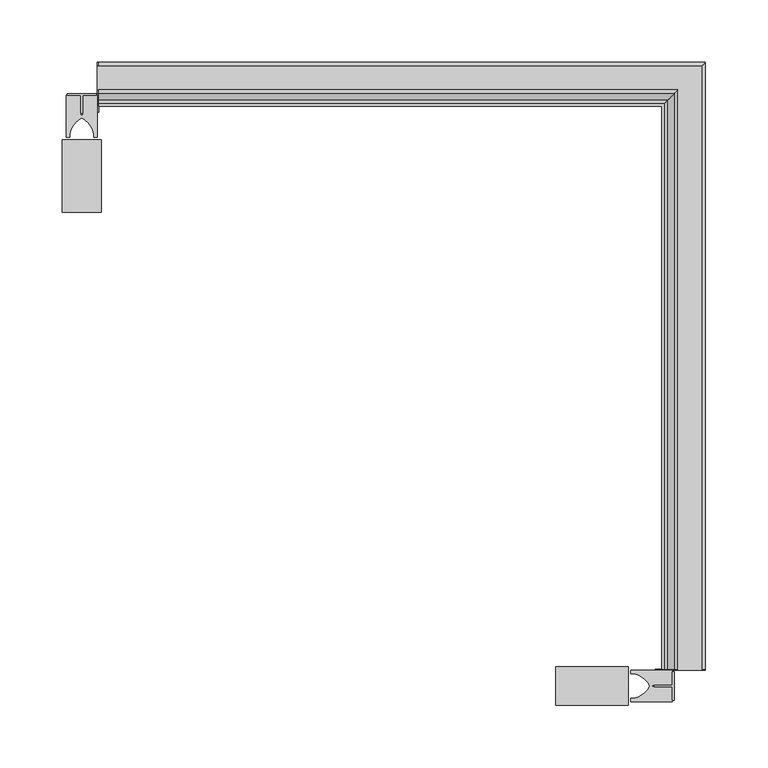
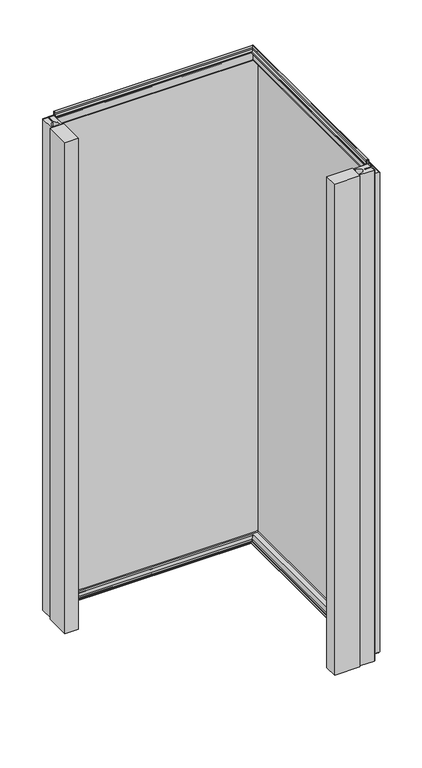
"""IFC4 building model written with IfcOpenShell, lengths in millimetres: plate geometry, Угловой модуль Fronttop : Угловой модуль Fronttop 120/1200."""

from ifc_helpers import new_model, si_unit, point, frame, frame_2d, origin, origin_with_axes, place, context, project, spatial, polyline, circle_curve, ellipse_curve, trimmed, segment, composite_curve, outline, extrude, source, transform, mapped, element, save
from ifc_brep_helpers import plane_surface, cylinder_surface, revolved_surface, advanced_brep


def plate_0956e401(model_context):
    return source(origin(), model_context, "Body", "SolidModel", [
        extrude(outline(polyline([(225.0, -368.4948846), (225.0, -391.5051154), (223.5, -391.5051154), (223.5, -380.6502496), (209.0759655, -380.6502496), (209.0759655, -379.35), (223.5, -379.35), (223.5, -368.4948846), (225.0, -368.4948846)])), origin_with_axes(), (0.0, 0.0, 1.0), 1200.0),
        extrude(outline(composite_curve([segment(polyline([(223.5, -367.4998455), (223.5, -379.25), (207.5, -379.25), (207.5, -380.75), (223.5, -380.75), (223.5, -392.5001545), (190.0, -392.5001545), (190.0, -389.75), (192.5, -389.75)]), True, "CONTINUOUS"), segment(trimmed(circle_curve(frame_2d((189.3183984, -371.9661979)), 18.0661619), [point((192.5, -389.75))], [point((205.5, -380.0))], True, "CARTESIAN"), True, "CONTINUOUS"), segment(trimmed(circle_curve(frame_2d((189.3183984, -388.0338021)), 18.0661619), [point((205.5, -380.0))], [point((192.5, -370.25))], True, "CARTESIAN"), True, "CONTINUOUS"), segment(polyline([(192.5, -370.25), (190.0, -370.25), (190.0, -367.4998455), (223.5, -367.4998455)]), True, "CONTINUOUS")], self_intersect=False)), origin_with_axes(), (0.0, 0.0, 1.0), 1200.0),
        extrude(outline(polyline([(130.0, -395.5), (130.0, -364.5), (188.0, -364.5), (188.0, -395.5), (130.0, -395.5)])), origin_with_axes(), (0.0, 0.0, 1.0), 1200.0),
        extrude(outline(polyline([(-261.5051154, 95.0), (-238.4948846, 95.0), (-238.4948846, 93.5), (-249.3497504, 93.5), (-249.3497504, 79.0759655), (-250.65, 79.0759655), (-250.65, 93.5), (-261.5051154, 93.5), (-261.5051154, 95.0)])), origin_with_axes(), (0.0, 0.0, 1.0), 1200.0),
        extrude(outline(composite_curve([segment(polyline([(-262.5001545, 93.5), (-250.75, 93.5), (-250.75, 77.5), (-249.25, 77.5), (-249.25, 93.5), (-237.4998455, 93.5), (-237.4998455, 60.0), (-240.25, 60.0), (-240.25, 62.5)]), True, "CONTINUOUS"), segment(trimmed(circle_curve(frame_2d((-258.0338021, 59.3183984)), 18.0661619), [point((-240.25, 62.5))], [point((-250.0, 75.5))], True, "CARTESIAN"), True, "CONTINUOUS"), segment(trimmed(circle_curve(frame_2d((-241.9661979, 59.3183984)), 18.0661619), [point((-250.0, 75.5))], [point((-259.75, 62.5))], True, "CARTESIAN"), True, "CONTINUOUS"), segment(polyline([(-259.75, 62.5), (-259.75, 60.0), (-262.5001545, 60.0), (-262.5001545, 93.5)]), True, "CONTINUOUS")], self_intersect=False)), origin_with_axes(), (0.0, 0.0, 1.0), 1200.0),
        extrude(outline(polyline([(-234.5, 0.0), (-265.5, 0.0), (-265.5, 58.0), (-234.5, 58.0), (-234.5, 0.0)])), origin_with_axes(), (0.0, 0.0, 1.0), 1200.0),
        advanced_brep(
        [(-236.5, 94.0, 1208.0), (-236.5, 91.0, 1208.0), (-236.5, 91.0, 1204.0), (-236.5, 87.0, 1200.0), (-236.5, 85.0, 1200.0), (-236.5, 85.0, 1201.0), (-236.5, 87.0, 1201.0), (-236.5, 90.0, 1204.0), (-236.5, 90.0, 1208.0), (-236.5, 95.0, 1208.0), (-236.5, 95.0, 1200.0), (-236.5, 94.0, 1200.0), (-236.5, 85.0, 2.0), (215.0, 85.0, 2.0), (215.0, 85.0, 3.0), (-236.5, 85.0, 3.0), (215.0, -366.5, 3.0), (217.0, -366.5, 3.0), (217.0, 87.0, 3.0), (-236.5, 87.0, 3.0), (218.0, 88.0, 4.0), (-236.5, 88.0, 4.0), (218.0, 88.0, 8.0), (-236.5, 88.0, 8.0), (227.0, 97.0, 8.0), (-236.5, 97.0, 8.0), (227.0, 97.0, 0.0), (-236.5, 97.0, 0.0), (229.0, 99.0, -2.0), (-236.5, 99.0, -2.0), (229.0, -366.5, -2.0), (247.0, -366.5, -2.0), (247.0, 117.0, -2.0), (-236.5, 117.0, -2.0), (249.0, 119.0, 0.0), (-236.5, 119.0, 0.0), (249.0, 119.0, 1169.0), (-236.5, 119.0, 1169.0), (247.0, 117.0, 1171.0), (-236.5, 117.0, 1171.0), (247.0, -366.5, 1171.0), (228.0, -366.5, 1171.0), (228.0, 98.0, 1171.0), (-236.5, 98.0, 1171.0), (224.0, 94.0, 1175.0), (-236.5, 94.0, 1175.0), (224.0, 94.0, 1208.0), (221.0, 91.0, 1208.0), (221.0, 91.0, 1204.0), (217.0, 87.0, 1200.0), (217.0, -366.5, 1200.0), (215.0, -366.5, 1200.0), (215.0, 85.0, 1200.0), (215.0, 85.0, 1201.0), (215.0, -366.5, 1201.0), (217.0, -366.5, 1201.0), (217.0, 87.0, 1201.0), (220.0, 90.0, 1204.0), (220.0, 90.0, 1208.0), (225.0, 95.0, 1208.0), (225.0, 95.0, 1175.0), (-236.5, 95.0, 1175.0), (-237.5, 95.0, 1175.0), (-237.5, 95.0, 1200.0), (228.0, 98.0, 1172.0), (-236.5, 98.0, 1172.0), (228.0, -366.5, 1172.0), (228.0, -367.5, 1172.0), (247.0, -367.5, 1172.0), (247.0, -366.5, 1172.0), (247.0, 117.0, 1172.0), (-236.5, 117.0, 1172.0), (-237.5, 117.0, 1172.0), (-237.5, 98.0, 1172.0), (250.0, 120.0, 1169.0), (-236.5, 120.0, 1169.0), (250.0, 120.0, 0.0), (-236.5, 120.0, 0.0), (-237.5, 120.0, 0.0), (-237.5, 120.0, 1169.0), (247.0, 117.0, -3.0), (-236.5, 117.0, -3.0), (247.0, -366.5, -3.0), (247.0, -367.5, -3.0), (225.0, -367.5, -3.0), (225.0, -366.5, -3.0), (229.0, -366.5, -3.0), (229.0, 99.0, -3.0), (-236.5, 99.0, -3.0), (-236.5, 95.0, -3.0), (-237.5, 95.0, -3.0), (-237.5, 117.0, -3.0), (226.0, 96.0, 0.0), (-236.5, 96.0, 0.0), (226.0, 96.0, 8.0), (-236.5, 96.0, 8.0), (219.0, 89.0, 8.0), (-236.5, 89.0, 8.0), (219.0, 89.0, 4.0), (-236.5, 89.0, 4.0), (217.0, 87.0, 2.0), (-236.5, 87.0, 2.0), (217.0, -366.5, 2.0), (215.0, -366.5, 2.0), (221.0, -366.5, 1204.0), (221.0, -366.5, 1208.0), (224.0, -366.5, 1208.0), (224.0, -366.5, 1200.0), (225.0, -366.5, 1200.0), (225.0, -366.5, 1208.0), (220.0, -366.5, 1208.0), (220.0, -366.5, 1204.0), (218.0, -366.5, 4.0), (218.0, -366.5, 8.0), (227.0, -366.5, 8.0), (227.0, -366.5, 0.0), (249.0, -366.5, 0.0), (249.0, -366.5, 1169.0), (224.0, -366.5, 1175.0), (225.0, -367.5, 1200.0), (225.0, -367.5, 1175.0), (225.0, -366.5, 1175.0), (250.0, -366.5, 1169.0), (250.0, -367.5, 1169.0), (250.0, -367.5, 0.0), (250.0, -366.5, 0.0), (226.0, -366.5, 0.0), (226.0, -366.5, 8.0), (219.0, -366.5, 8.0), (219.0, -366.5, 4.0), (-236.5, 80.0, 1200.0), (-236.5, 80.0, 0.0), (-236.5, 95.0, 0.0), (-237.5, 95.0, 0.0), (-237.5, 80.0, 0.0), (-237.5, 80.0, 1200.0), (210.0, -366.5, 0.0), (210.0, -366.5, 1200.0), (225.0, -366.5, 0.0), (210.0, -367.5, 0.0), (225.0, -367.5, 0.0), (210.0, -367.5, 1200.0)],
        [
            (0, 1, circle_curve(frame((-236.5, 92.5, 1208.0), z_axis=(1.0, 0.0, 0.0), x_axis=(0.0, -1.0, 0.0)), 1.5)),
            (1, 2),
            (2, 3, circle_curve(frame((-236.5, 87.0, 1204.0), z_axis=(-1.0, 0.0, 0.0), x_axis=(0.0, -1.0, 0.0)), 4.0)),
            (3, 4),
            (4, 5),
            (5, 6),
            (6, 7, circle_curve(frame((-236.5, 87.0, 1204.0), z_axis=(1.0, 0.0, 0.0), x_axis=(0.0, -1.0, 0.0)), 3.0)),
            (7, 8),
            (8, 9, circle_curve(frame((-236.5, 92.5, 1208.0), z_axis=(-1.0, 0.0, 0.0), x_axis=(0.0, -1.0, 0.0)), 2.5)),
            (9, 10),
            (10, 11),
            (11, 0),
            (12, 13),
            (13, 14),
            (14, 15),
            (15, 12),
            (14, 16),
            (16, 17),
            (17, 18),
            (18, 19),
            (19, 15),
            (18, 20, ellipse_curve(frame((217.0, 87.0, 4.0), z_axis=(0.7071067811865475, -0.7071067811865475, 0.0), x_axis=(0.7071067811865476, 0.7071067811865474, 0.0)), 1.4142136, 1.0)),
            (20, 21),
            (21, 19, circle_curve(frame((-236.5, 87.0, 4.0), z_axis=(-1.0, 0.0, 0.0), x_axis=(0.0, -1.0, 0.0)), 1.0)),
            (20, 22),
            (22, 23),
            (23, 21),
            (22, 24, ellipse_curve(frame((222.5, 92.5, 8.0), z_axis=(-0.7071067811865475, 0.7071067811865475, 0.0), x_axis=(-0.7071067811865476, -0.7071067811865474, 0.0)), 6.363961, 4.5)),
            (24, 25),
            (25, 23, circle_curve(frame((-236.5, 92.5, 8.0), z_axis=(1.0, 0.0, 0.0), x_axis=(0.0, -1.0, 0.0)), 4.5)),
            (24, 26),
            (26, 27),
            (27, 25),
            (26, 28, ellipse_curve(frame((229.0, 99.0, 0.0), z_axis=(0.7071067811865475, -0.7071067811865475, 0.0), x_axis=(0.7071067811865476, 0.7071067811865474, 0.0)), 2.8284271, 2.0)),
            (28, 29),
            (29, 27, circle_curve(frame((-236.5, 99.0, 0.0), z_axis=(-1.0, 0.0, 0.0), x_axis=(0.0, -1.0, 0.0)), 2.0)),
            (28, 30),
            (30, 31),
            (31, 32),
            (32, 33),
            (33, 29),
            (32, 34, ellipse_curve(frame((247.0, 117.0, 0.0), z_axis=(0.7071067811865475, -0.7071067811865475, 0.0), x_axis=(0.7071067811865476, 0.7071067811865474, 0.0)), 2.8284271, 2.0)),
            (34, 35),
            (35, 33, circle_curve(frame((-236.5, 117.0, 0.0), z_axis=(-1.0, 0.0, 0.0), x_axis=(0.0, -1.0, 0.0)), 2.0)),
            (34, 36),
            (36, 37),
            (37, 35),
            (36, 38, ellipse_curve(frame((247.0, 117.0, 1169.0), z_axis=(0.7071067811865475, -0.7071067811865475, 0.0), x_axis=(0.7071067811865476, 0.7071067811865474, 0.0)), 2.8284271, 2.0)),
            (38, 39),
            (39, 37, circle_curve(frame((-236.5, 117.0, 1169.0), z_axis=(-1.0, 0.0, 0.0), x_axis=(0.0, -1.0, 0.0)), 2.0)),
            (38, 40),
            (40, 41),
            (41, 42),
            (42, 43),
            (43, 39),
            (42, 44, ellipse_curve(frame((228.0, 98.0, 1175.0), z_axis=(-0.7071067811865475, 0.7071067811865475, 0.0), x_axis=(-0.7071067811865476, -0.7071067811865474, 0.0)), 5.6568542, 4.0)),
            (44, 45),
            (45, 43, circle_curve(frame((-236.5, 98.0, 1175.0), z_axis=(1.0, 0.0, 0.0), x_axis=(0.0, -1.0, 0.0)), 4.0)),
            (44, 46),
            (46, 0),
            (11, 45),
            (46, 47, ellipse_curve(frame((222.5, 92.5, 1208.0), z_axis=(0.7071067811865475, -0.7071067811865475, 0.0), x_axis=(0.7071067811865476, 0.7071067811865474, 0.0)), 2.1213203, 1.5)),
            (47, 1),
            (47, 48),
            (48, 2),
            (48, 49, ellipse_curve(frame((217.0, 87.0, 1204.0), z_axis=(-0.7071067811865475, 0.7071067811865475, 0.0), x_axis=(-0.7071067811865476, -0.7071067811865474, 0.0)), 5.6568542, 4.0)),
            (49, 3),
            (49, 50),
            (50, 51),
            (51, 52),
            (52, 4),
            (4, 3),
            (52, 53),
            (53, 5),
            (53, 54),
            (54, 55),
            (55, 56),
            (56, 6),
            (56, 57, ellipse_curve(frame((217.0, 87.0, 1204.0), z_axis=(0.7071067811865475, -0.7071067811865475, 0.0), x_axis=(0.7071067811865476, 0.7071067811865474, 0.0)), 4.2426407, 3.0)),
            (57, 7),
            (57, 58),
            (58, 8),
            (58, 59, ellipse_curve(frame((222.5, 92.5, 1208.0), z_axis=(-0.7071067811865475, 0.7071067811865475, 0.0), x_axis=(-0.7071067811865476, -0.7071067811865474, 0.0)), 3.5355339, 2.5)),
            (59, 9),
            (59, 60),
            (60, 61),
            (61, 62),
            (62, 63),
            (63, 10),
            (60, 64, ellipse_curve(frame((228.0, 98.0, 1175.0), z_axis=(0.7071067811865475, -0.7071067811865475, 0.0), x_axis=(0.7071067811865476, 0.7071067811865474, 0.0)), 4.2426407, 3.0)),
            (64, 65),
            (65, 61, circle_curve(frame((-236.5, 98.0, 1175.0), z_axis=(-1.0, 0.0, 0.0), x_axis=(0.0, -1.0, 0.0)), 3.0)),
            (64, 66),
            (66, 67),
            (67, 68),
            (68, 69),
            (69, 70),
            (70, 71),
            (71, 72),
            (72, 73),
            (73, 65),
            (70, 74, ellipse_curve(frame((247.0, 117.0, 1169.0), z_axis=(-0.7071067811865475, 0.7071067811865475, 0.0), x_axis=(-0.7071067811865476, -0.7071067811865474, 0.0)), 4.2426407, 3.0)),
            (74, 75),
            (75, 71, circle_curve(frame((-236.5, 117.0, 1169.0), z_axis=(1.0, 0.0, 0.0), x_axis=(0.0, -1.0, 0.0)), 3.0)),
            (74, 76),
            (76, 77),
            (77, 78),
            (78, 79),
            (79, 75),
            (76, 80, ellipse_curve(frame((247.0, 117.0, 0.0), z_axis=(-0.7071067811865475, 0.7071067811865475, 0.0), x_axis=(-0.7071067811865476, -0.7071067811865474, 0.0)), 4.2426407, 3.0)),
            (80, 81),
            (81, 77, circle_curve(frame((-236.5, 117.0, 0.0), z_axis=(1.0, 0.0, 0.0), x_axis=(0.0, -1.0, 0.0)), 3.0)),
            (80, 82),
            (82, 83),
            (83, 84),
            (84, 85),
            (85, 86),
            (86, 87),
            (87, 88),
            (88, 89),
            (89, 90),
            (90, 91),
            (91, 81),
            (87, 92, ellipse_curve(frame((229.0, 99.0, 0.0), z_axis=(-0.7071067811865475, 0.7071067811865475, 0.0), x_axis=(-0.7071067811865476, -0.7071067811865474, 0.0)), 4.2426407, 3.0)),
            (92, 93),
            (93, 88, circle_curve(frame((-236.5, 99.0, 0.0), z_axis=(1.0, 0.0, 0.0), x_axis=(0.0, -1.0, 0.0)), 3.0)),
            (92, 94),
            (94, 95),
            (95, 93),
            (94, 96, ellipse_curve(frame((222.5, 92.5, 8.0), z_axis=(0.7071067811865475, -0.7071067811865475, 0.0), x_axis=(0.7071067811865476, 0.7071067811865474, 0.0)), 4.9497475, 3.5)),
            (96, 97),
            (97, 95, circle_curve(frame((-236.5, 92.5, 8.0), z_axis=(-1.0, 0.0, 0.0), x_axis=(0.0, -1.0, 0.0)), 3.5)),
            (96, 98),
            (98, 99),
            (99, 97),
            (98, 100, ellipse_curve(frame((217.0, 87.0, 4.0), z_axis=(-0.7071067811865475, 0.7071067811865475, 0.0), x_axis=(-0.7071067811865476, -0.7071067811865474, 0.0)), 2.8284271, 2.0)),
            (100, 101),
            (101, 99, circle_curve(frame((-236.5, 87.0, 4.0), z_axis=(1.0, 0.0, 0.0), x_axis=(0.0, -1.0, 0.0)), 2.0)),
            (12, 101),
            (100, 102),
            (102, 103),
            (103, 13),
            (54, 51),
            (51, 50),
            (50, 104, circle_curve(frame((217.0, -366.5, 1204.0), z_axis=(0.0, -1.0, 0.0), x_axis=(-1.0, 0.0, 0.0)), 4.0)),
            (104, 105),
            (105, 106, circle_curve(frame((222.5, -366.5, 1208.0), z_axis=(0.0, 1.0, 0.0), x_axis=(-1.0, 0.0, 0.0)), 1.5)),
            (106, 107),
            (107, 108),
            (108, 109),
            (109, 110, circle_curve(frame((222.5, -366.5, 1208.0), z_axis=(0.0, -1.0, 0.0), x_axis=(-1.0, 0.0, 0.0)), 2.5)),
            (110, 111),
            (111, 55, circle_curve(frame((217.0, -366.5, 1204.0), z_axis=(0.0, 1.0, 0.0), x_axis=(-1.0, 0.0, 0.0)), 3.0)),
            (103, 16),
            (17, 112, circle_curve(frame((217.0, -366.5, 4.0), z_axis=(0.0, -1.0, 0.0), x_axis=(-1.0, 0.0, 0.0)), 1.0)),
            (112, 20),
            (112, 113),
            (113, 22),
            (113, 114, circle_curve(frame((222.5, -366.5, 8.0), z_axis=(0.0, 1.0, 0.0), x_axis=(-1.0, 0.0, 0.0)), 4.5)),
            (114, 24),
            (114, 115),
            (115, 26),
            (115, 30, circle_curve(frame((229.0, -366.5, 0.0), z_axis=(0.0, -1.0, 0.0), x_axis=(-1.0, 0.0, 0.0)), 2.0)),
            (31, 116, circle_curve(frame((247.0, -366.5, 0.0), z_axis=(0.0, -1.0, 0.0), x_axis=(-1.0, 0.0, 0.0)), 2.0)),
            (116, 34),
            (116, 117),
            (117, 36),
            (117, 40, circle_curve(frame((247.0, -366.5, 1169.0), z_axis=(0.0, -1.0, 0.0), x_axis=(-1.0, 0.0, 0.0)), 2.0)),
            (41, 118, circle_curve(frame((228.0, -366.5, 1175.0), z_axis=(0.0, 1.0, 0.0), x_axis=(-1.0, 0.0, 0.0)), 4.0)),
            (118, 44),
            (118, 107),
            (106, 46),
            (105, 47),
            (104, 48),
            (111, 57),
            (110, 58),
            (109, 59),
            (108, 119),
            (119, 120),
            (120, 121),
            (121, 60),
            (121, 66, circle_curve(frame((228.0, -366.5, 1175.0), z_axis=(0.0, -1.0, 0.0), x_axis=(-1.0, 0.0, 0.0)), 3.0)),
            (69, 122, circle_curve(frame((247.0, -366.5, 1169.0), z_axis=(0.0, 1.0, 0.0), x_axis=(-1.0, 0.0, 0.0)), 3.0)),
            (122, 74),
            (122, 123),
            (123, 124),
            (124, 125),
            (125, 76),
            (125, 82, circle_curve(frame((247.0, -366.5, 0.0), z_axis=(0.0, 1.0, 0.0), x_axis=(-1.0, 0.0, 0.0)), 3.0)),
            (86, 126, circle_curve(frame((229.0, -366.5, 0.0), z_axis=(0.0, 1.0, 0.0), x_axis=(-1.0, 0.0, 0.0)), 3.0)),
            (126, 92),
            (126, 127),
            (127, 94),
            (127, 128, circle_curve(frame((222.5, -366.5, 8.0), z_axis=(0.0, -1.0, 0.0), x_axis=(-1.0, 0.0, 0.0)), 3.5)),
            (128, 96),
            (128, 129),
            (129, 98),
            (129, 102, circle_curve(frame((217.0, -366.5, 4.0), z_axis=(0.0, 1.0, 0.0), x_axis=(-1.0, 0.0, 0.0)), 2.0)),
            (130, 131),
            (131, 132),
            (132, 89),
            (11, 3),
            (4, 130),
            (62, 73, circle_curve(frame((-237.5, 98.0, 1175.0), z_axis=(1.0, 0.0, 0.0), x_axis=(0.0, 1.0, 0.0)), 3.0)),
            (72, 79, circle_curve(frame((-237.5, 117.0, 1169.0), z_axis=(-1.0, 0.0, 0.0), x_axis=(0.0, 1.0, 0.0)), 3.0)),
            (78, 91, circle_curve(frame((-237.5, 117.0, 0.0), z_axis=(-1.0, 0.0, 0.0), x_axis=(0.0, 1.0, 0.0)), 3.0)),
            (90, 133),
            (133, 134),
            (134, 135),
            (135, 63),
            (135, 130),
            (134, 131),
            (133, 132),
            (136, 137),
            (137, 51),
            (50, 107),
            (85, 138),
            (138, 136),
            (139, 140),
            (140, 84),
            (83, 124, circle_curve(frame((247.0, -367.5, 0.0), z_axis=(0.0, -1.0, 0.0), x_axis=(-1.0, 0.0, 0.0)), 3.0)),
            (123, 68, circle_curve(frame((247.0, -367.5, 1169.0), z_axis=(0.0, -1.0, 0.0), x_axis=(-1.0, 0.0, 0.0)), 3.0)),
            (67, 120, circle_curve(frame((228.0, -367.5, 1175.0), z_axis=(0.0, 1.0, 0.0), x_axis=(-1.0, 0.0, 0.0)), 3.0)),
            (119, 141),
            (141, 139),
            (138, 140),
            (139, 136),
            (137, 141),
        ],
        [
            plane_surface(frame((-236.5, 0.0, 0.0), z_axis=(-1.0, 0.0, 0.0), x_axis=(0.0, 0.0, 1.0))),
            plane_surface(frame((-236.5, 85.0, 2.0), z_axis=(0.0, -1.0, 0.0), x_axis=(1.0, 0.0, 0.0))),
            plane_surface(frame((-236.5, 85.0, 3.0), z_axis=(0.0, 0.0, 1.0), x_axis=(1.0, 0.0, 0.0))),
            revolved_surface(polyline([(218.00000002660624, 86.0, 4.0), (-236.5, 86.0, 4.0)]), (-236.5, 87.0, 4.0), (1.0, 0.0, 0.0)),
            plane_surface(frame((-236.5, 88.0, 4.0), z_axis=(0.0, -1.0, 0.0), x_axis=(1.0, 0.0, 0.0))),
            cylinder_surface(frame((-236.5, 92.5, 8.0), z_axis=(-1.0, 0.0, 0.0), x_axis=(0.0, -1.0, 0.0)), 4.5),
            plane_surface(frame((-236.5, 97.0, 8.0), z_axis=(0.0, 1.0, 0.0), x_axis=(1.0, 0.0, 0.0))),
            revolved_surface(polyline([(230.99999998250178, 97.0, 0.0), (-236.5, 97.0, 0.0)]), (-236.5, 99.0, 0.0), (1.0, 0.0, 0.0)),
            plane_surface(frame((-236.5, 99.0, -2.0), z_axis=(0.0, 0.0, 1.0), x_axis=(1.0, 0.0, 0.0))),
            revolved_surface(polyline([(249.0, 115.0, 0.0), (-236.5, 115.0, 0.0)]), (-236.5, 117.0, 0.0), (1.0, 0.0, 0.0)),
            plane_surface(frame((-236.5, 119.0, 0.0), z_axis=(0.0, -1.0, 0.0), x_axis=(1.0, 0.0, 0.0))),
            revolved_surface(polyline([(249.0, 115.0, 1169.0), (-236.5, 115.0, 1169.0)]), (-236.5, 117.0, 1169.0), (1.0, 0.0, 0.0)),
            plane_surface(frame((-236.5, 117.0, 1171.0), z_axis=(0.0, 0.0, -1.0), x_axis=(1.0, 0.0, 0.0))),
            cylinder_surface(frame((-236.5, 98.0, 1175.0), z_axis=(-1.0, 0.0, 0.0), x_axis=(0.0, -1.0, 0.0)), 4.0),
            plane_surface(frame((-236.5, 94.0, 1175.0), z_axis=(0.0, -1.0, 0.0), x_axis=(1.0, 0.0, 0.0))),
            revolved_surface(polyline([(224.0, 91.0, 1208.0), (-236.5, 91.0, 1208.0)]), (-236.5, 92.5, 1208.0), (1.0, 0.0, 0.0)),
            plane_surface(frame((-236.5, 91.0, 1208.0), z_axis=(0.0, 1.0, 0.0), x_axis=(1.0, 0.0, 0.0))),
            cylinder_surface(frame((-236.5, 87.0, 1204.0), z_axis=(-1.0, 0.0, 0.0), x_axis=(0.0, -1.0, 0.0)), 4.0),
            plane_surface(frame((-236.5, 87.0, 1200.0), z_axis=(0.0, 0.0, -1.0), x_axis=(1.0, 0.0, 0.0))),
            plane_surface(frame((-236.5, 85.0, 1200.0), z_axis=(0.0, -1.0, 0.0), x_axis=(1.0, 0.0, 0.0))),
            plane_surface(frame((-236.5, 85.0, 1201.0), z_axis=(0.0, 0.0, 1.0), x_axis=(1.0, 0.0, 0.0))),
            revolved_surface(polyline([(220.00000000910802, 84.0, 1204.0), (-236.5, 84.0, 1204.0)]), (-236.5, 87.0, 1204.0), (1.0, 0.0, 0.0)),
            plane_surface(frame((-236.5, 90.0, 1204.0), z_axis=(0.0, -1.0, 0.0), x_axis=(1.0, 0.0, 0.0))),
            cylinder_surface(frame((-236.5, 92.5, 1208.0), z_axis=(-1.0, 0.0, 0.0), x_axis=(0.0, -1.0, 0.0)), 2.5),
            plane_surface(frame((-236.5, 95.0, 1208.0), z_axis=(0.0, 1.0, 0.0), x_axis=(1.0, 0.0, 0.0))),
            revolved_surface(polyline([(231.00000000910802, 95.0, 1175.0), (-236.5, 95.0, 1175.0)]), (-236.5, 98.0, 1175.0), (1.0, 0.0, 0.0)),
            plane_surface(frame((-236.5, 98.0, 1172.0), z_axis=(0.0, 0.0, 1.0), x_axis=(1.0, 0.0, 0.0))),
            cylinder_surface(frame((-236.5, 117.0, 1169.0), z_axis=(-1.0, 0.0, 0.0), x_axis=(0.0, -1.0, 0.0)), 3.0),
            plane_surface(frame((-236.5, 120.0, 1169.0), z_axis=(0.0, 1.0, 0.0), x_axis=(1.0, 0.0, 0.0))),
            cylinder_surface(frame((-236.5, 117.0, 0.0), z_axis=(-1.0, 0.0, 0.0), x_axis=(0.0, -1.0, 0.0)), 3.0),
            plane_surface(frame((-236.5, 117.0, -3.0), z_axis=(0.0, 0.0, -1.0), x_axis=(1.0, 0.0, 0.0))),
            cylinder_surface(frame((-236.5, 99.0, 0.0), z_axis=(-1.0, 0.0, 0.0), x_axis=(0.0, -1.0, 0.0)), 3.0),
            plane_surface(frame((-236.5, 96.0, 0.0), z_axis=(0.0, -1.0, 0.0), x_axis=(1.0, 0.0, 0.0))),
            revolved_surface(polyline([(226.00000002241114, 89.0, 8.0), (-236.5, 89.0, 8.0)]), (-236.5, 92.5, 8.0), (1.0, 0.0, 0.0)),
            plane_surface(frame((-236.5, 89.0, 8.0), z_axis=(0.0, 1.0, 0.0), x_axis=(1.0, 0.0, 0.0))),
            cylinder_surface(frame((-236.5, 87.0, 4.0), z_axis=(-1.0, 0.0, 0.0), x_axis=(0.0, -1.0, 0.0)), 2.0),
            plane_surface(frame((-236.5, 87.0, 2.0), z_axis=(0.0, 0.0, -1.0), x_axis=(1.0, 0.0, 0.0))),
            plane_surface(frame((130.0, -366.5, 0.0), z_axis=(0.0, -1.0, 0.0), x_axis=(0.0, 0.0, 1.0))),
            plane_surface(frame((215.0, 85.0, 2.0), z_axis=(-1.0, 0.0, 0.0), x_axis=(0.0, -1.0, 0.0))),
            revolved_surface(polyline([(216.0, -366.5, 4.0), (216.0, 88.00000002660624, 4.0)]), (217.0, 0.0, 4.0), (0.0, -1.0, 0.0)),
            plane_surface(frame((218.0, 88.0, 4.0), z_axis=(-1.0, 0.0, 0.0), x_axis=(0.0, -1.0, 0.0))),
            cylinder_surface(frame((222.5, 0.0, 8.0), z_axis=(0.0, 1.0, 0.0), x_axis=(-1.0, 0.0, 0.0)), 4.5),
            plane_surface(frame((227.0, 97.0, 8.0), z_axis=(1.0, 0.0, 0.0), x_axis=(0.0, -1.0, 0.0))),
            revolved_surface(polyline([(227.0, -366.5, 0.0), (227.0, 100.9999999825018, 0.0)]), (229.0, 0.0, 0.0), (0.0, -1.0, 0.0)),
            revolved_surface(polyline([(245.0, -366.5, 0.0), (245.0, 119.0, 0.0)]), (247.0, 0.0, 0.0), (0.0, -1.0, 0.0)),
            plane_surface(frame((249.0, 119.0, 0.0), z_axis=(-1.0, 0.0, 0.0), x_axis=(0.0, -1.0, 0.0))),
            revolved_surface(polyline([(245.0, -366.5, 1169.0), (245.0, 119.0, 1169.0)]), (247.0, 0.0, 1169.0), (0.0, -1.0, 0.0)),
            cylinder_surface(frame((228.0, 0.0, 1175.0), z_axis=(0.0, 1.0, 0.0), x_axis=(-1.0, 0.0, 0.0)), 4.0),
            plane_surface(frame((224.0, 94.0, 1175.0), z_axis=(-1.0, 0.0, 0.0), x_axis=(0.0, -1.0, 0.0))),
            revolved_surface(polyline([(221.0, -366.5, 1208.0), (221.0, 94.0, 1208.0)]), (222.5, 0.0, 1208.0), (0.0, -1.0, 0.0)),
            plane_surface(frame((221.0, 91.0, 1208.0), z_axis=(1.0, 0.0, 0.0), x_axis=(0.0, -1.0, 0.0))),
            cylinder_surface(frame((217.0, 0.0, 1204.0), z_axis=(0.0, 1.0, 0.0), x_axis=(-1.0, 0.0, 0.0)), 4.0),
            plane_surface(frame((215.0, 85.0, 1200.0), z_axis=(-1.0, 0.0, 0.0), x_axis=(0.0, -1.0, 0.0))),
            revolved_surface(polyline([(214.0, -366.5, 1204.0), (214.0, 90.00000000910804, 1204.0)]), (217.0, 0.0, 1204.0), (0.0, -1.0, 0.0)),
            plane_surface(frame((220.0, 90.0, 1204.0), z_axis=(-1.0, 0.0, 0.0), x_axis=(0.0, -1.0, 0.0))),
            cylinder_surface(frame((222.5, 0.0, 1208.0), z_axis=(0.0, 1.0, 0.0), x_axis=(-1.0, 0.0, 0.0)), 2.5),
            plane_surface(frame((225.0, 95.0, 1208.0), z_axis=(1.0, 0.0, 0.0), x_axis=(0.0, -1.0, 0.0))),
            revolved_surface(polyline([(225.0, -366.5, 1175.0), (225.0, 101.00000000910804, 1175.0)]), (228.0, 0.0, 1175.0), (0.0, -1.0, 0.0)),
            cylinder_surface(frame((247.0, 0.0, 1169.0), z_axis=(0.0, 1.0, 0.0), x_axis=(-1.0, 0.0, 0.0)), 3.0),
            plane_surface(frame((250.0, 120.0, 1169.0), z_axis=(1.0, 0.0, 0.0), x_axis=(0.0, -1.0, 0.0))),
            cylinder_surface(frame((247.0, 0.0, 0.0), z_axis=(0.0, 1.0, 0.0), x_axis=(-1.0, 0.0, 0.0)), 3.0),
            cylinder_surface(frame((229.0, 0.0, 0.0), z_axis=(0.0, 1.0, 0.0), x_axis=(-1.0, 0.0, 0.0)), 3.0),
            plane_surface(frame((226.0, 96.0, 0.0), z_axis=(-1.0, 0.0, 0.0), x_axis=(0.0, -1.0, 0.0))),
            revolved_surface(polyline([(219.0, -366.5, 8.0), (219.0, 96.00000002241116, 8.0)]), (222.5, 0.0, 8.0), (0.0, -1.0, 0.0)),
            plane_surface(frame((219.0, 89.0, 8.0), z_axis=(1.0, 0.0, 0.0), x_axis=(0.0, -1.0, 0.0))),
            cylinder_surface(frame((217.0, 0.0, 4.0), z_axis=(0.0, 1.0, 0.0), x_axis=(-1.0, 0.0, 0.0)), 2.0),
            plane_surface(frame((-236.5, 95.0, 1200.0), z_axis=(1.0, 0.0, 0.0), x_axis=(0.0, -1.0, 0.0))),
            plane_surface(frame((-237.5, 95.0, 1200.0), z_axis=(-1.0, 0.0, 0.0), x_axis=(0.0, 1.0, 0.0))),
            plane_surface(frame((-236.5, 95.0, 1200.0), z_axis=(0.0, 0.0, 1.0), x_axis=(-1.0, 0.0, 0.0))),
            plane_surface(frame((-236.5, 80.0, 1200.0), z_axis=(0.0, -1.0, 0.0), x_axis=(-1.0, 0.0, 0.0))),
            plane_surface(frame((-236.5, 80.0, 0.0), z_axis=(0.0, 0.0, -1.0), x_axis=(-1.0, 0.0, 0.0))),
            plane_surface(frame((-236.5, 95.0, 0.0), z_axis=(0.0, -1.0, 0.0), x_axis=(-1.0, 0.0, 0.0))),
            cylinder_surface(frame((-237.5, 117.0, 0.0), z_axis=(1.0, 0.0, 0.0), x_axis=(0.0, 1.0, 0.0)), 3.0),
            cylinder_surface(frame((-237.5, 117.0, 1169.0), z_axis=(1.0, 0.0, 0.0), x_axis=(0.0, 1.0, 0.0)), 3.0),
            revolved_surface(polyline([(-237.5, 101.0, 1175.0), (-236.5, 101.0, 1175.0)]), (-237.5, 98.0, 1175.0), (-1.0, 0.0, 0.0)),
            plane_surface(frame((210.0, -366.5, 1200.0), z_axis=(0.0, 1.0, 0.0), x_axis=(0.0, 0.0, 1.0))),
            plane_surface(frame((210.0, -367.5, 1200.0), z_axis=(0.0, -1.0, 0.0), x_axis=(0.0, 0.0, -1.0))),
            plane_surface(frame((225.0, -366.5, 0.0), z_axis=(0.0, 0.0, -1.0), x_axis=(0.0, -1.0, 0.0))),
            plane_surface(frame((225.0, -366.5, -3.0), z_axis=(-1.0, 0.0, 0.0), x_axis=(0.0, -1.0, 0.0))),
            cylinder_surface(frame((247.0, -367.5, 0.0), z_axis=(0.0, 1.0, 0.0), x_axis=(-1.0, 0.0, 0.0)), 3.0),
            cylinder_surface(frame((247.0, -367.5, 1169.0), z_axis=(0.0, 1.0, 0.0), x_axis=(-1.0, 0.0, 0.0)), 3.0),
            revolved_surface(polyline([(225.0, -367.5, 1175.0), (225.0, -366.5, 1175.0)]), (228.0, -367.5, 1175.0), (0.0, -1.0, 0.0)),
            plane_surface(frame((210.0, -366.5, 1200.0), z_axis=(0.0, 0.0, 1.0), x_axis=(0.0, -1.0, 0.0))),
            plane_surface(frame((210.0, -366.5, 0.0), z_axis=(-1.0, 0.0, 0.0), x_axis=(0.0, -1.0, 0.0))),
        ],
        [
            (0, [[1, 2, 3, 4, 5, 6, 7, 8, 9, 10, 11, 12]]),
            (1, [[13, 14, 15, 16]]),
            (2, [[-15, 17, 18, 19, 20, 21]]),
            (3, [[-20, 22, 23, 24]]),
            (4, [[-23, 25, 26, 27]]),
            (5, [[-26, 28, 29, 30]]),
            (6, [[-29, 31, 32, 33]]),
            (7, [[-32, 34, 35, 36]]),
            (8, [[-35, 37, 38, 39, 40, 41]]),
            (9, [[-40, 42, 43, 44]]),
            (10, [[-43, 45, 46, 47]]),
            (11, [[-46, 48, 49, 50]]),
            (12, [[-49, 51, 52, 53, 54, 55]]),
            (13, [[-54, 56, 57, 58]]),
            (14, [[-57, 59, 60, -12, 61]]),
            (15, [[-1, -60, 62, 63]]),
            (16, [[-2, -63, 64, 65]]),
            (17, [[-3, -65, 66, 67]]),
            (18, [[-67, 68, 69, 70, 71, 72]]),
            (19, [[-5, -71, 73, 74]]),
            (20, [[-6, -74, 75, 76, 77, 78]]),
            (21, [[-7, -78, 79, 80]]),
            (22, [[-8, -80, 81, 82]]),
            (23, [[-9, -82, 83, 84]]),
            (24, [[-84, 85, 86, 87, 88, 89, -10]]),
            (25, [[-86, 90, 91, 92]]),
            (26, [[-91, 93, 94, 95, 96, 97, 98, 99, 100, 101]]),
            (27, [[-98, 102, 103, 104]]),
            (28, [[-103, 105, 106, 107, 108, 109]]),
            (29, [[-106, 110, 111, 112]]),
            (30, [[-111, 113, 114, 115, 116, 117, 118, 119, 120, 121, 122, 123]]),
            (31, [[-119, 124, 125, 126]]),
            (32, [[-125, 127, 128, 129]]),
            (33, [[-128, 130, 131, 132]]),
            (34, [[-131, 133, 134, 135]]),
            (35, [[-134, 136, 137, 138]]),
            (36, [[-13, 139, -137, 140, 141, 142]]),
            (37, [[-76, 143, 144, 145, 146, 147, 148, 149, 150, 151, 152, 153]]),
            (38, [[-14, -142, 154, -17]]),
            (39, [[-19, 155, 156, -22]]),
            (40, [[-25, -156, 157, 158]]),
            (41, [[-28, -158, 159, 160]]),
            (42, [[-31, -160, 161, 162]]),
            (43, [[-34, -162, 163, -37]]),
            (44, [[-39, 164, 165, -42]]),
            (45, [[-45, -165, 166, 167]]),
            (46, [[-48, -167, 168, -51]]),
            (47, [[-53, 169, 170, -56]]),
            (48, [[-59, -170, 171, -148, 172]]),
            (49, [[-62, -172, -147, 173]]),
            (50, [[-64, -173, -146, 174]]),
            (51, [[-66, -174, -145, -68]]),
            (52, [[-70, -143, -75, -73]]),
            (53, [[-77, -153, 175, -79]]),
            (54, [[-81, -175, -152, 176]]),
            (55, [[-83, -176, -151, 177]]),
            (56, [[-85, -177, -150, 178, 179, 180, 181]]),
            (57, [[-90, -181, 182, -93]]),
            (58, [[-97, 183, 184, -102]]),
            (59, [[-105, -184, 185, 186, 187, 188]]),
            (60, [[-110, -188, 189, -113]]),
            (61, [[-118, 190, 191, -124]]),
            (62, [[-127, -191, 192, 193]]),
            (63, [[-130, -193, 194, 195]]),
            (64, [[-133, -195, 196, 197]]),
            (65, [[-136, -197, 198, -140]]),
            (66, [[199, 200, 201, -120, -126, -129, -132, -135, -138, -139, -16, -21, -24, -27, -30, -33, -36, -41, -44, -47, -50, -55, -58, -61, 202, -72, 203]]),
            (67, [[-88, 204, -100, 205, -108, 206, -122, 207, 208, 209, 210]]),
            (68, [[-210, 211, -203, -4, -202, -11, -89]]),
            (69, [[-199, -211, -209, 212]]),
            (70, [[-200, -212, -208, 213]]),
            (71, [[-201, -213, -207, -121]]),
            (72, [[-206, -107, -112, -123]]),
            (73, [[-205, -99, -104, -109]]),
            (74, [[-204, -87, -92, -101]]),
            (75, [[214, 215, -69, 216, -171, -169, -52, -168, -166, -164, -38, -163, -161, -159, -157, -155, -18, -154, -141, -198, -196, -194, -192, -190, -117, 217, 218]]),
            (76, [[219, 220, -115, 221, -186, 222, -95, 223, -179, 224, 225]]),
            (77, [[-218, 226, -219, 227]]),
            (78, [[-217, -116, -220, -226]]),
            (79, [[-221, -114, -189, -187]]),
            (80, [[-222, -185, -183, -96]]),
            (81, [[-223, -94, -182, -180]]),
            (82, [[-224, -178, -149, -216, -144, -215, 228]]),
            (83, [[-214, -227, -225, -228]]),
        ],
    ),
    ])


if __name__ == "__main__":
    model = new_model("IFC4")
    model_context = context("Model", 3, world=origin())
    ifc_project = project(units=[si_unit("LENGTHUNIT", "METRE", prefix="MILLI")], contexts=[model_context])
    site = spatial("IfcSite", under=ifc_project)
    building = spatial("IfcBuilding", under=site)
    placement = place(None, origin())
    plate_shape = plate_0956e401(model_context)
    element("IfcPlate", 1, ObjectType="Угловой модуль Fronttop : Угловой модуль Fronttop 120/1200", at=placement, inside=building, context=model_context, shape_type="MappedRepresentation", body=[
        mapped(plate_shape, transform((0.0, 0.0, 0.0), x_axis=(1.0, 0.0, 0.0), y_axis=(0.0, 1.0, 0.0), z_axis=(0.0, 0.0, 1.0))),
    ])
    save(model, "model.ifc")
